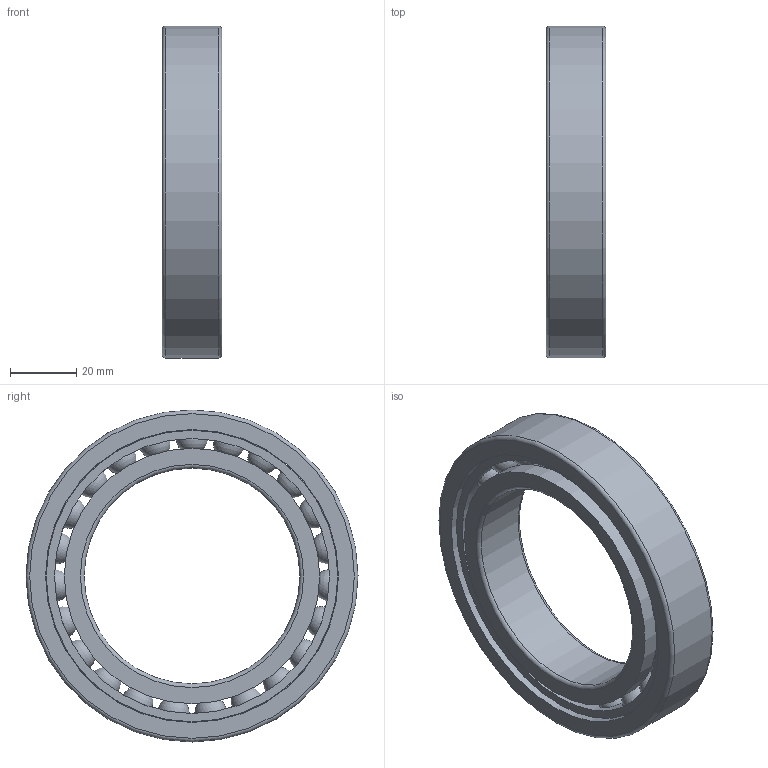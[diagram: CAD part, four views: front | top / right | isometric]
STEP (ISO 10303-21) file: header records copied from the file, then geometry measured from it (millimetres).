
FILE_DESCRIPTION(/* description */ (''),/* implementation_level */ '2;1');
FILE_NAME(/* name */ 'S_6013_TA.step',/* time_stamp */ '2013-03-06T14:43:36+01:00',/* author */ ('Marian'),/* organization */ ('GMN'),/* preprocessor_version */ 'ST-DEVELOPER v11',/* originating_system */ 'SIEMENS UGS NX 6.0',/* authorisation */ '');
FILE_SCHEMA (('CONFIG_CONTROL_DESIGN'));
Length unit declared in the file: millimetre
Products named in the file (1): S_6013_TA
Bounding box: 18 x 100 x 100 mm (x, y, z)
Volume: 61538.3 mm3; surface area: 38068.9 mm2
Topology: 26 solids, 26 shells, 66 faces, 172 edges, 112 vertices
Faces by surface type: cylinder 30, sphere 23, torus 6, plane 6, cone 1
Full cylindrical faces by diameter (mm): 9.725 x23, 65 x1, 76.9 x2, 82.825 x1, 87.8 x1, 88.2 x1, 100 x1
Entity records: 2200 total; most frequent: CARTESIAN_POINT 1004, DIRECTION 174, FACE_BOUND 155, EDGE_LOOP 132, ORIENTED_EDGE 132, VERTEX_POINT 89, AXIS2_PLACEMENT_3D 87, EDGE_CURVE 66
